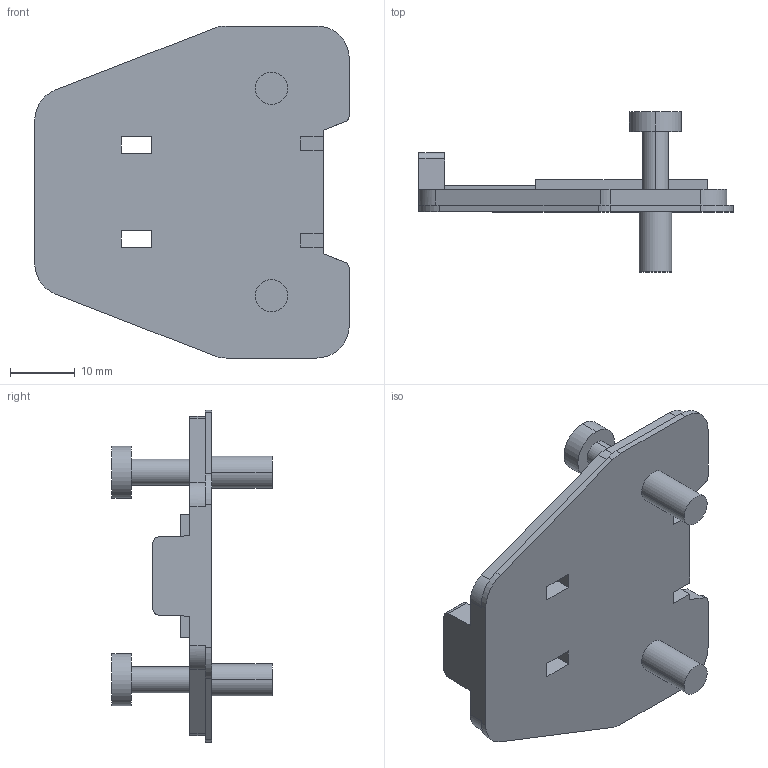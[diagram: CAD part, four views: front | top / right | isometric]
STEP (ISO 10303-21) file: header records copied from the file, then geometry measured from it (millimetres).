
FILE_DESCRIPTION (( 'STEP AP203' ), '1' );
FILE_NAME ('T96H00AQ-28.STEP', '2020-02-12T02:34:33', ( 'Windows 蚚誧' ), ( '' ), 'SwSTEP 2.0', 'SolidWorks 2012', '' );
FILE_SCHEMA (( 'CONFIG_CONTROL_DESIGN' ));
Length unit declared in the file: millimetre
Products named in the file (1): T96H00AQ-28
Bounding box: 48.5 x 24.7 x 51.2 mm (x, y, z)
Volume: 8643.6 mm3; surface area: 5980 mm2
Topology: 1 solids, 1 shells, 78 faces, 214 edges, 142 vertices
Faces by surface type: plane 50, cylinder 28
Entity records: 2736 total; most frequent: CARTESIAN_POINT 659, ORIENTED_EDGE 428, DIRECTION 394, EDGE_CURVE 214, VECTOR 158, LINE 158, VERTEX_POINT 142, AXIS2_PLACEMENT_3D 118
